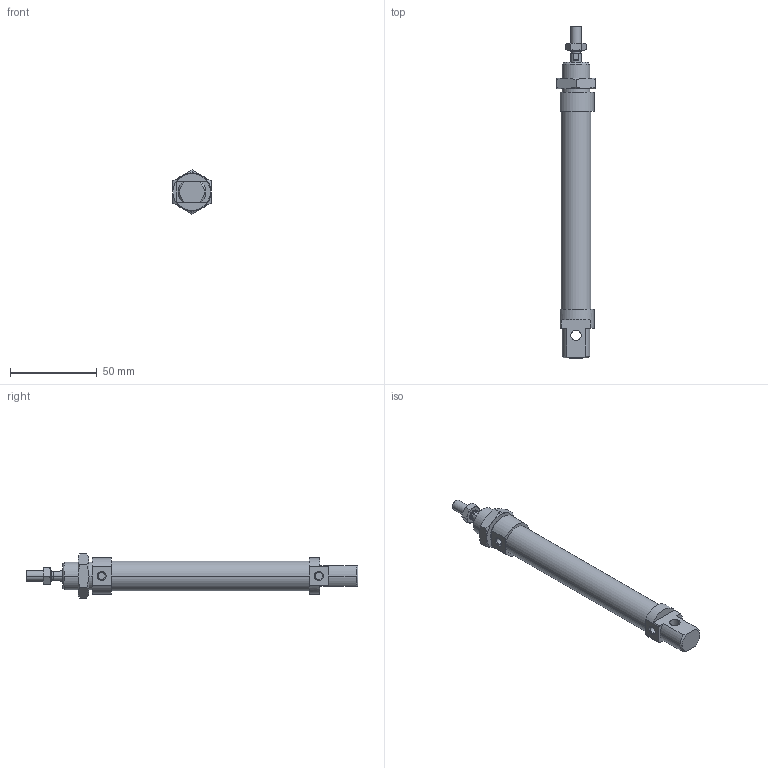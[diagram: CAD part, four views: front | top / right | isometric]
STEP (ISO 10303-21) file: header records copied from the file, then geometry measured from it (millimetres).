
FILE_DESCRIPTION((''),'2;1');
FILE_NAME('I:\DOC-EDP\Lib-3d\1200\CILINDRI\1280\1280_16_0080.stp','2003-04-07T15:03:28',('maffial1'),(''),'Autodesk Inventor (R) 6.0','Autodesk Inventor (R) 6.0','');
FILE_SCHEMA(('AUTOMOTIVE_DESIGN { 1 0 10303 214 1 1 1 1 }'));
Length unit declared in the file: millimetre
Products named in the file (5): 1280_16_0080; S1280_16_80; 1200_16_05; 1200_16_06; C1280_16_80
Assembly tree (4 placements, depth 2):
  1280_16_0080
    S1280_16_80
    1200_16_05
    1200_16_06
    C1280_16_80
Bounding box: 22 x 191 x 25.4 mm (x, y, z)
Volume: 41449.1 mm3; surface area: 16385.6 mm2
Topology: 4 solids, 4 shells, 121 faces, 268 edges, 162 vertices
Faces by surface type: cone 40, plane 39, cylinder 22, bspline 20
Entity records: 3653 total; most frequent: CARTESIAN_POINT 976, DIRECTION 556, ORIENTED_EDGE 536, EDGE_CURVE 268, AXIS2_PLACEMENT_3D 230, VERTEX_POINT 162, EDGE_LOOP 134, FACE_OUTER_BOUND 121
